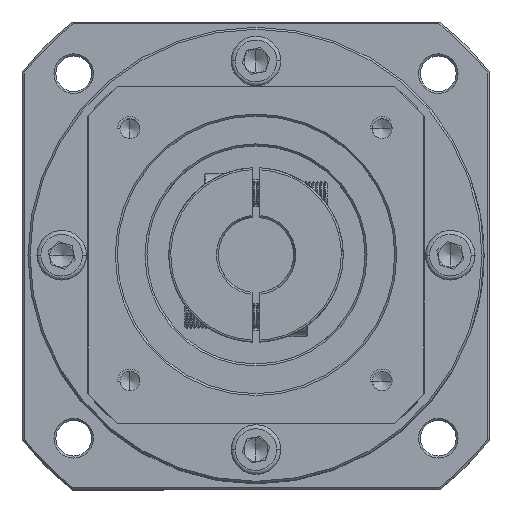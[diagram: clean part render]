
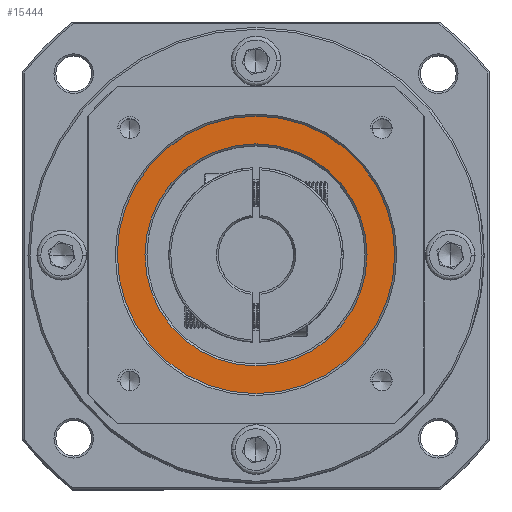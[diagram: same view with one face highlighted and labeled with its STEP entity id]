
A CAD part, top view. The second image highlights one B-rep face of the part: STEP entity #15444.
In plain terms, the highlighted planar face has unit normal (0, 0, 1).
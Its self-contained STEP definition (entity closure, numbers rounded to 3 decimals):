
#3121 = VERTEX_POINT ( 'NONE', #30120 ) ;
#6771 = CARTESIAN_POINT ( 'NONE',  ( -130.334, 28.649, 30.131 ) ) ;
#7512 = DIRECTION ( 'NONE',  ( 1., 0., 0. ) ) ;
#10439 = DIRECTION ( 'NONE',  ( 0., 0., 1. ) ) ;
#11474 = AXIS2_PLACEMENT_3D ( 'NONE', #106257, #56882, #7512 ) ;
#15444 = ADVANCED_FACE ( 'NONE', ( #32684, #76475 ), #105883, .T. ) ;
#15736 = AXIS2_PLACEMENT_3D ( 'NONE', #16722, #74344, #24995 ) ;
#16382 = CARTESIAN_POINT ( 'NONE',  ( -95.334, 28.649, 30.131 ) ) ;
#16722 = CARTESIAN_POINT ( 'NONE',  ( -95.334, 28.649, 30.131 ) ) ;
#16992 = CIRCLE ( 'NONE', #63583, 28. ) ;
#19818 = EDGE_CURVE ( 'NONE', #44714, #20077, #63547, .T. ) ;
#20077 = VERTEX_POINT ( 'NONE', #6771 ) ;
#21913 = EDGE_LOOP ( 'NONE', ( #59990, #27524 ) ) ;
#23861 = CIRCLE ( 'NONE', #15736, 28. ) ;
#24648 = DIRECTION ( 'NONE',  ( 1., 0., 0. ) ) ;
#24995 = DIRECTION ( 'NONE',  ( 1., 0., 0. ) ) ;
#27524 = ORIENTED_EDGE ( 'NONE', *, *, #51331, .T. ) ;
#27858 = VERTEX_POINT ( 'NONE', #95293 ) ;
#30068 = CARTESIAN_POINT ( 'NONE',  ( -95.334, 28.649, 30.131 ) ) ;
#30120 = CARTESIAN_POINT ( 'NONE',  ( -123.334, 28.649, 30.131 ) ) ;
#32684 = FACE_OUTER_BOUND ( 'NONE', #21913, .T. ) ;
#35859 = ORIENTED_EDGE ( 'NONE', *, *, #103212, .T. ) ;
#38373 = DIRECTION ( 'NONE',  ( 1., 0., 0. ) ) ;
#44714 = VERTEX_POINT ( 'NONE', #58354 ) ;
#51331 = EDGE_CURVE ( 'NONE', #20077, #44714, #56893, .T. ) ;
#56026 = AXIS2_PLACEMENT_3D ( 'NONE', #59841, #10439, #68084 ) ;
#56882 = DIRECTION ( 'NONE',  ( 0., 0., 1. ) ) ;
#56893 = CIRCLE ( 'NONE', #97749, 35. ) ;
#58354 = CARTESIAN_POINT ( 'NONE',  ( -60.334, 28.649, 30.131 ) ) ;
#59841 = CARTESIAN_POINT ( 'NONE',  ( -95.334, 28.649, 30.131 ) ) ;
#59990 = ORIENTED_EDGE ( 'NONE', *, *, #19818, .T. ) ;
#63547 = CIRCLE ( 'NONE', #56026, 35. ) ;
#63583 = AXIS2_PLACEMENT_3D ( 'NONE', #16382, #74007, #24648 ) ;
#64023 = ORIENTED_EDGE ( 'NONE', *, *, #101640, .T. ) ;
#68084 = DIRECTION ( 'NONE',  ( 1., 0., 0. ) ) ;
#74007 = DIRECTION ( 'NONE',  ( 0., 0., -1. ) ) ;
#74344 = DIRECTION ( 'NONE',  ( 0., 0., -1. ) ) ;
#76475 = FACE_BOUND ( 'NONE', #94121, .T. ) ;
#87733 = DIRECTION ( 'NONE',  ( 0., 0., 1. ) ) ;
#94121 = EDGE_LOOP ( 'NONE', ( #35859, #64023 ) ) ;
#95293 = CARTESIAN_POINT ( 'NONE',  ( -67.334, 28.649, 30.131 ) ) ;
#97749 = AXIS2_PLACEMENT_3D ( 'NONE', #30068, #87733, #38373 ) ;
#101640 = EDGE_CURVE ( 'NONE', #3121, #27858, #23861, .T. ) ;
#103212 = EDGE_CURVE ( 'NONE', #27858, #3121, #16992, .T. ) ;
#105883 = PLANE ( 'NONE',  #11474 ) ;
#106257 = CARTESIAN_POINT ( 'NONE',  ( -95.334, 28.649, 30.131 ) ) ;
